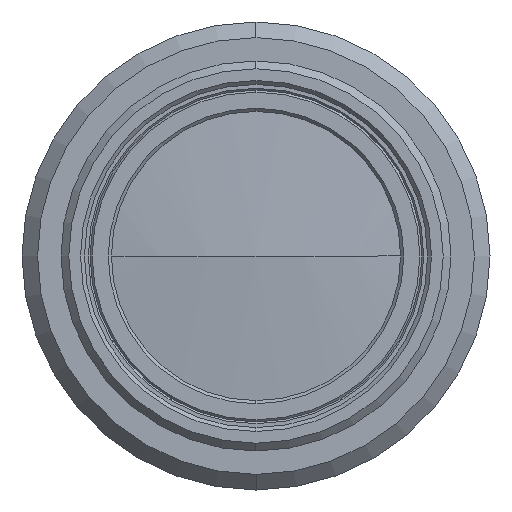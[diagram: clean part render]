
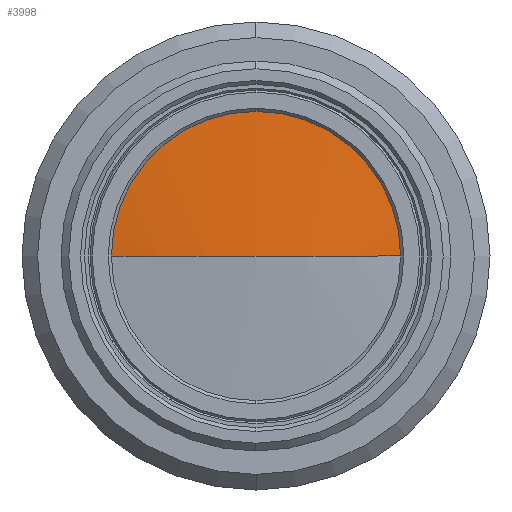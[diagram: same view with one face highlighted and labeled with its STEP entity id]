
A CAD part, left-side view. The second image highlights one B-rep face of the part: STEP entity #3998.
In plain terms, the highlighted spherical face has radius 73.2 mm.
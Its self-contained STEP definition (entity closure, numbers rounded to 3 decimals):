
#14 = DIRECTION ( 'NONE',  ( 0., 0., -1. ) ) ;
#15 = DIRECTION ( 'NONE',  ( 0., 1., 0. ) ) ;
#29 = CARTESIAN_POINT ( 'NONE',  ( 5.159, 0., 0. ) ) ;
#167 = AXIS2_PLACEMENT_3D ( 'NONE', #2621, #2582, #2935 ) ;
#178 = AXIS2_PLACEMENT_3D ( 'NONE', #587, #3153, #15 ) ;
#245 = CARTESIAN_POINT ( 'NONE',  ( 5.159, -9.37, 0. ) ) ;
#289 = CARTESIAN_POINT ( 'NONE',  ( 5.159, 9.37, 0. ) ) ;
#426 = EDGE_CURVE ( 'NONE', #3786, #1796, #993, .T. ) ;
#432 = VERTEX_POINT ( 'NONE', #2376 ) ;
#565 = DIRECTION ( 'NONE',  ( 1., 0., 0. ) ) ;
#587 = CARTESIAN_POINT ( 'NONE',  ( 77.757, 0., 0. ) ) ;
#588 = DIRECTION ( 'NONE',  ( 0., 0., -1. ) ) ;
#993 = CIRCLE ( 'NONE', #2051, 73.2 ) ;
#1173 = ORIENTED_EDGE ( 'NONE', *, *, #3029, .F. ) ;
#1176 = DIRECTION ( 'NONE',  ( 0., 0., 1. ) ) ;
#1230 = ORIENTED_EDGE ( 'NONE', *, *, #2143, .F. ) ;
#1625 = CIRCLE ( 'NONE', #167, 73.2 ) ;
#1629 = CIRCLE ( 'NONE', #2217, 9.37 ) ;
#1780 = ORIENTED_EDGE ( 'NONE', *, *, #3178, .F. ) ;
#1796 = VERTEX_POINT ( 'NONE', #245 ) ;
#2051 = AXIS2_PLACEMENT_3D ( 'NONE', #4026, #1176, #2132 ) ;
#2132 = DIRECTION ( 'NONE',  ( 0., -1., 0. ) ) ;
#2143 = EDGE_CURVE ( 'NONE', #2682, #432, #3052, .T. ) ;
#2217 = AXIS2_PLACEMENT_3D ( 'NONE', #29, #3816, #14 ) ;
#2376 = CARTESIAN_POINT ( 'NONE',  ( 5.159, 0., 9.37 ) ) ;
#2558 = FACE_OUTER_BOUND ( 'NONE', #3759, .T. ) ;
#2582 = DIRECTION ( 'NONE',  ( 0., 0., -1. ) ) ;
#2621 = CARTESIAN_POINT ( 'NONE',  ( 77.757, 0., 0. ) ) ;
#2682 = VERTEX_POINT ( 'NONE', #289 ) ;
#2890 = SPHERICAL_SURFACE ( 'NONE', #178, 73.2 ) ;
#2924 = AXIS2_PLACEMENT_3D ( 'NONE', #4123, #565, #588 ) ;
#2935 = DIRECTION ( 'NONE',  ( -1., 0., 0. ) ) ;
#3029 = EDGE_CURVE ( 'NONE', #3786, #2682, #1625, .T. ) ;
#3052 = CIRCLE ( 'NONE', #2924, 9.37 ) ;
#3153 = DIRECTION ( 'NONE',  ( 0., 0., 1. ) ) ;
#3178 = EDGE_CURVE ( 'NONE', #432, #1796, #1629, .T. ) ;
#3576 = CARTESIAN_POINT ( 'NONE',  ( 4.557, 0., 0. ) ) ;
#3759 = EDGE_LOOP ( 'NONE', ( #1173, #3912, #1780, #1230 ) ) ;
#3786 = VERTEX_POINT ( 'NONE', #3576 ) ;
#3816 = DIRECTION ( 'NONE',  ( 1., 0., 0. ) ) ;
#3912 = ORIENTED_EDGE ( 'NONE', *, *, #426, .T. ) ;
#3998 = ADVANCED_FACE ( 'NONE', ( #2558 ), #2890, .T. ) ;
#4026 = CARTESIAN_POINT ( 'NONE',  ( 77.757, 0., 0. ) ) ;
#4123 = CARTESIAN_POINT ( 'NONE',  ( 5.159, 0., 0. ) ) ;
